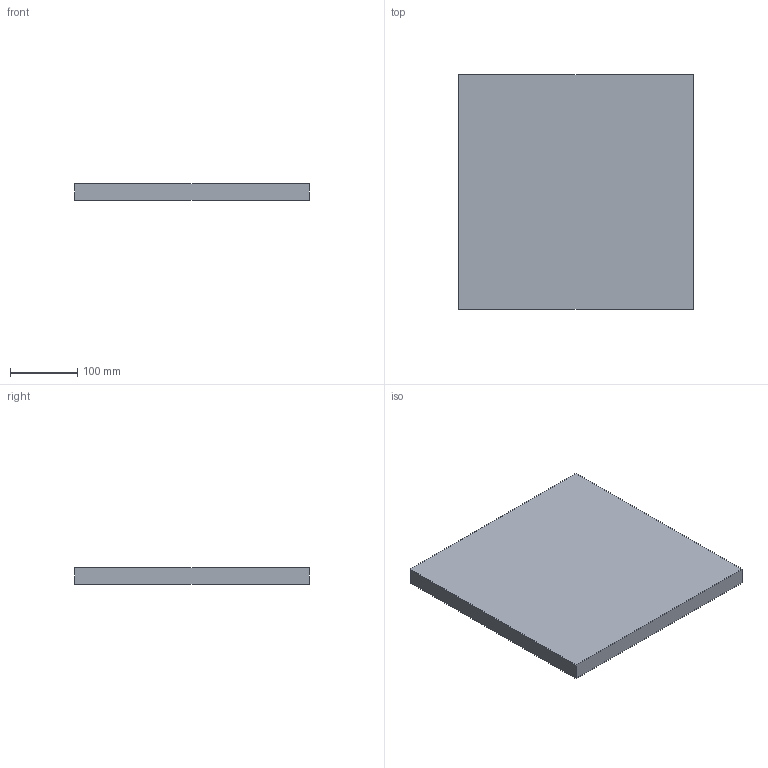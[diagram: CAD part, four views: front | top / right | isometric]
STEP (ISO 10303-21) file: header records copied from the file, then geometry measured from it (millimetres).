
FILE_DESCRIPTION(('Open CASCADE Model'),'2;1');
FILE_NAME('Open CASCADE Shape Model','2026-09-19T12:55:11',('Author'),( 'Open CASCADE'),'Open CASCADE STEP processor 7.9','Open CASCADE 7.9' ,'Unknown');
FILE_SCHEMA(('AUTOMOTIVE_DESIGN { 1 0 10303 214 1 1 1 1 }'));
Length unit declared in the file: millimetre
Products named in the file (1): Open CASCADE STEP translator 7.9 31
Bounding box: 350 x 350 x 25 mm (x, y, z)
Volume: 3062500 mm3; surface area: 280000 mm2
Topology: 1 solids, 1 shells, 6 faces, 12 edges, 8 vertices
Faces by surface type: plane 6
Entity records: 322 total; most frequent: CARTESIAN_POINT 51, DIRECTION 50, LINE 36, VECTOR 36, ORIENTED_EDGE 24, PCURVE 24, DEFINITIONAL_REPRESENTATION 24, EDGE_CURVE 12
